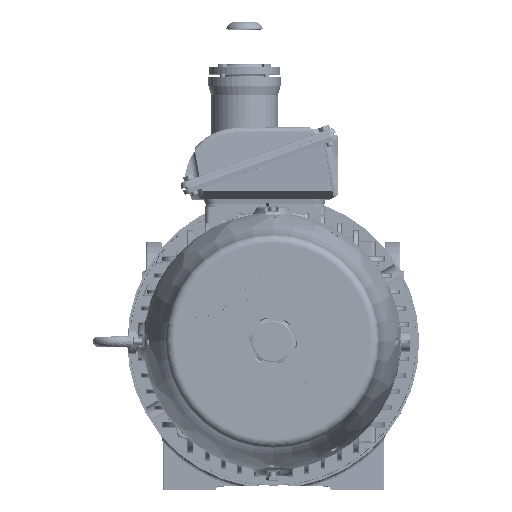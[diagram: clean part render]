
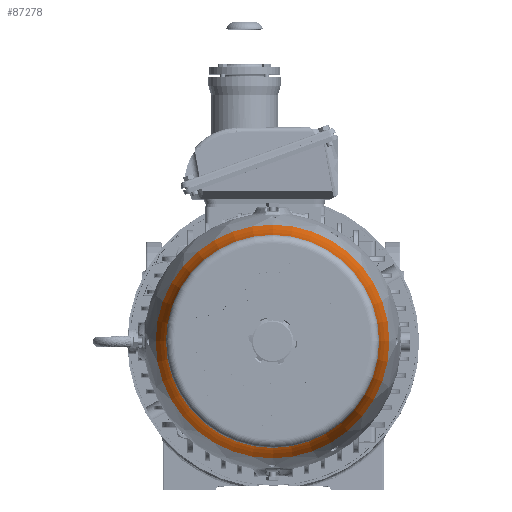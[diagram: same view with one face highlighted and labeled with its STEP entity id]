
A CAD part, top view. The second image highlights one B-rep face of the part: STEP entity #87278.
In plain terms, the highlighted toroidal (fillet/blend) face has major radius 308.616 mm and minor radius 180 mm.
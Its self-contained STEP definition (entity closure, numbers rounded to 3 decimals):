
#1278=TOROIDAL_SURFACE('',#95209,308.617,180.);
#11291=FACE_OUTER_BOUND('',#16551,.T.);
#16551=EDGE_LOOP('',(#70343,#70344,#70345,#70346,#70347,#70348));
#21401=CIRCLE('',#95206,129.927);
#21402=CIRCLE('',#95207,129.927);
#21404=CIRCLE('',#95210,142.487);
#21405=CIRCLE('',#95211,142.487);
#21406=CIRCLE('',#95212,180.);
#38443=VERTEX_POINT('',#164898);
#38444=VERTEX_POINT('',#164899);
#38445=VERTEX_POINT('',#164904);
#38446=VERTEX_POINT('',#164905);
#49596=EDGE_CURVE('',#38443,#38444,#21401,.T.);
#49597=EDGE_CURVE('',#38444,#38443,#21402,.T.);
#49599=EDGE_CURVE('',#38445,#38446,#21404,.T.);
#49600=EDGE_CURVE('',#38446,#38445,#21405,.T.);
#49601=EDGE_CURVE('',#38446,#38444,#21406,.T.);
#70343=ORIENTED_EDGE('',*,*,#49599,.F.);
#70344=ORIENTED_EDGE('',*,*,#49600,.F.);
#70345=ORIENTED_EDGE('',*,*,#49601,.T.);
#70346=ORIENTED_EDGE('',*,*,#49597,.T.);
#70347=ORIENTED_EDGE('',*,*,#49596,.T.);
#70348=ORIENTED_EDGE('',*,*,#49601,.F.);
#87278=ADVANCED_FACE('',(#11291),#1278,.F.);
#95206=AXIS2_PLACEMENT_3D('',#164900,#113620,#113621);
#95207=AXIS2_PLACEMENT_3D('',#164901,#113622,#113623);
#95209=AXIS2_PLACEMENT_3D('',#164903,#113626,#113627);
#95210=AXIS2_PLACEMENT_3D('',#164906,#113628,#113629);
#95211=AXIS2_PLACEMENT_3D('',#164907,#113630,#113631);
#95212=AXIS2_PLACEMENT_3D('',#164908,#113632,#113633);
#113620=DIRECTION('center_axis',(0.,0.,
-1.));
#113621=DIRECTION('ref_axis',(-1.,0.,0.));
#113622=DIRECTION('center_axis',(0.,0.,
-1.));
#113623=DIRECTION('ref_axis',(-1.,0.,0.));
#113626=DIRECTION('center_axis',(0.,0.,
-1.));
#113627=DIRECTION('ref_axis',(-1.,0.,0.));
#113628=DIRECTION('center_axis',(0.,0.,
-1.));
#113629=DIRECTION('ref_axis',(-1.,0.,0.));
#113630=DIRECTION('center_axis',(0.,0.,
-1.));
#113631=DIRECTION('ref_axis',(-1.,0.,0.));
#113632=DIRECTION('center_axis',(0.,1.,0.));
#113633=DIRECTION('ref_axis',(1.,0.,0.));
#164898=CARTESIAN_POINT('',(-130.791,0.,601.005));
#164899=CARTESIAN_POINT('',(129.064,0.,601.005));
#164900=CARTESIAN_POINT('Origin',(-0.863,0.,
601.005));
#164901=CARTESIAN_POINT('Origin',(-0.863,0.,
601.005));
#164903=CARTESIAN_POINT('Origin',(-0.863,0.,
622.687));
#164904=CARTESIAN_POINT('',(-143.35,0.,553.399));
#164905=CARTESIAN_POINT('',(141.623,0.,553.399));
#164906=CARTESIAN_POINT('Origin',(-0.863,0.,
553.399));
#164907=CARTESIAN_POINT('Origin',(-0.863,0.,
553.399));
#164908=CARTESIAN_POINT('Origin',(307.753,0.,
622.687));
